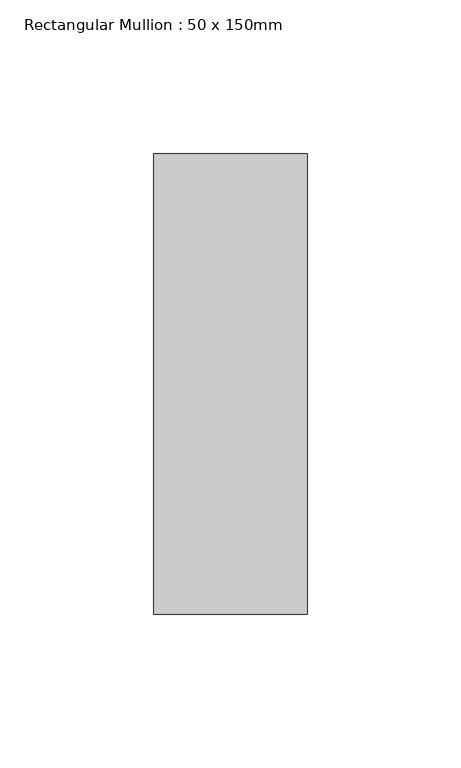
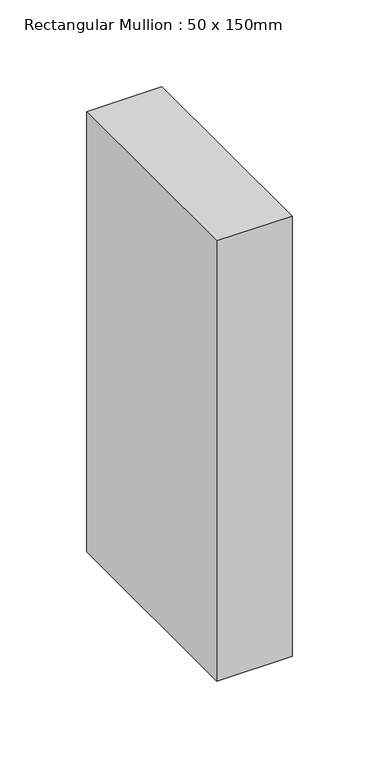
"""IFC4 building model written with IfcOpenShell, lengths in millimetres: member geometry, Rectangular Mullion : 50 x 150mm."""

from ifc_helpers import new_model, si_unit, frame, origin, place, context, project, spatial, polyline, outline, extrude, source, transform, mapped, element, save


def rectangular_mullion_50_x_150mm_972fc01c(model_context):
    return source(origin(), model_context, "Body", "SweptSolid", [
        extrude(outline(polyline([(0.0, 0.0), (0.0573868, -50.0), (-309.7719747, -50.0), (-309.7179651, 0.0), (0.0, 0.0)])), frame((0.0, -75.0, 0.0), z_axis=(0.0, 1.0, 0.0), x_axis=(0.0, 0.0, 1.0)), (0.0, 0.0, 1.0), 150.0),
    ])


if __name__ == "__main__":
    model = new_model("IFC4")
    model_context = context("Model", 3, world=origin())
    ifc_project = project(units=[si_unit("LENGTHUNIT", "METRE", prefix="MILLI")], contexts=[model_context])
    site = spatial("IfcSite", under=ifc_project)
    building = spatial("IfcBuilding", under=site)
    placement = place(None, origin())
    rectangular_mullion_50_x_150mm_shape = rectangular_mullion_50_x_150mm_972fc01c(model_context)
    element("IfcMember", 1, ObjectType="Rectangular Mullion : 50 x 150mm", at=placement, inside=building, context=model_context, shape_type="MappedRepresentation", body=[
        mapped(rectangular_mullion_50_x_150mm_shape, transform((0.0, 0.0, 0.0), x_axis=(1.0, 0.0, 0.0), y_axis=(0.0, 1.0, 0.0), z_axis=(0.0, 0.0, 1.0))),
    ])
    save(model, "model.ifc")
